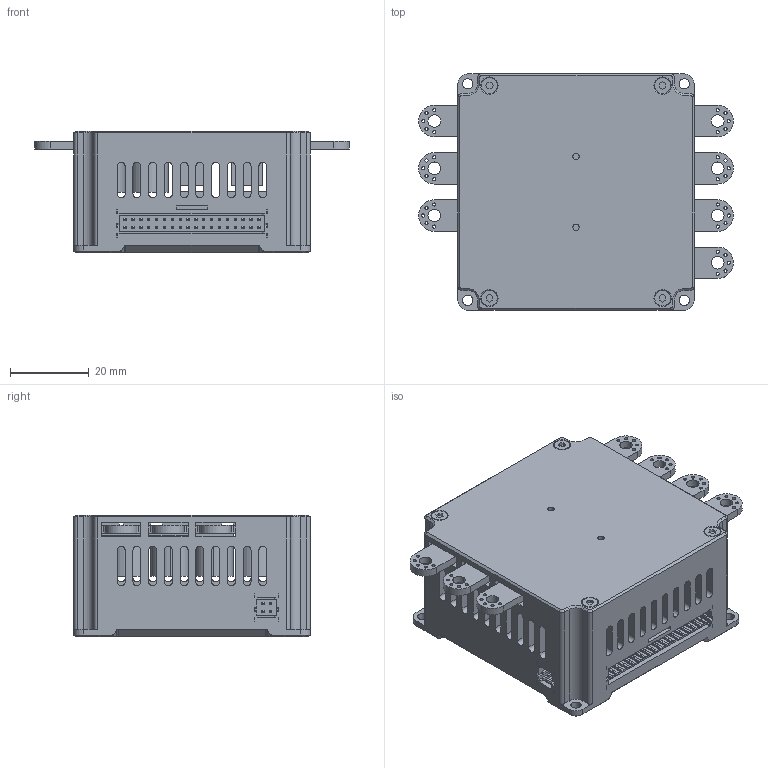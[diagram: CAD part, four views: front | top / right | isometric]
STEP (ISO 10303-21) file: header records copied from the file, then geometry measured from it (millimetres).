
FILE_DESCRIPTION((''),'2;1');
FILE_NAME('CHILD1','2017-11-07T',('Baul'),(''),'PRO/ENGINEER BY PARAMETRIC TECHNOLOGY CORPORATION, 2009280','PRO/ENGINEER BY PARAMETRIC TECHNOLOGY CORPORATION, 2009280','');
FILE_SCHEMA(('CONFIG_CONTROL_DESIGN'));
Length unit declared in the file: millimetre
Products named in the file (1): CHILD1
Bounding box: 80 x 60 x 30.99 mm (x, y, z)
Volume: 47172.6 mm3; surface area: 49906.9 mm2
Topology: 1 solids, 13 shells, 2575 faces, 6800 edges, 4327 vertices
Faces by surface type: plane 1941, cylinder 570, cone 64
Entity records: 78915 total; most frequent: CARTESIAN_POINT 13758, ORIENTED_EDGE 13568, DIRECTION 13105, EDGE_CURVE 6784, VECTOR 5549, LINE 5549, VERTEX_POINT 4327, AXIS2_PLACEMENT_3D 3778
